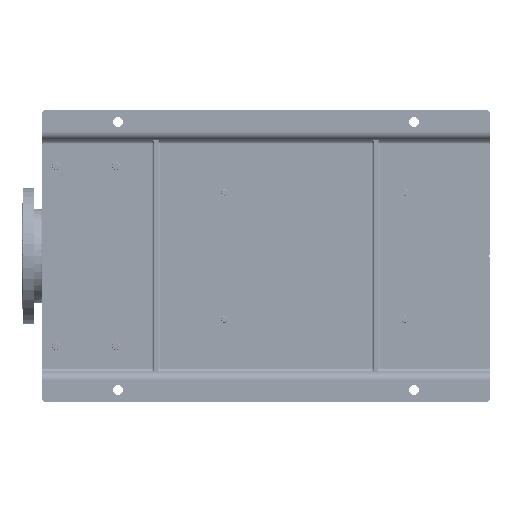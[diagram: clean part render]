
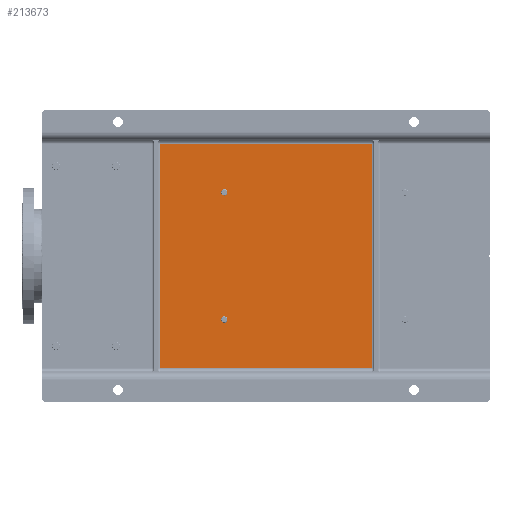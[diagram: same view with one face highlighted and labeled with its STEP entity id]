
A CAD part, front view. The second image highlights one B-rep face of the part: STEP entity #213673.
In plain terms, the highlighted planar face has unit normal (0, -1, 0).
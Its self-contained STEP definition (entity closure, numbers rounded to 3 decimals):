
#2666 = ORIENTED_EDGE ( 'NONE', *, *, #279667, .T. ) ;
#6515 = ORIENTED_EDGE ( 'NONE', *, *, #17752, .T. ) ;
#7103 = ORIENTED_EDGE ( 'NONE', *, *, #119168, .T. ) ;
#7380 = VECTOR ( 'NONE', #8045, 1000. ) ;
#7725 = DIRECTION ( 'NONE',  ( -1., 0., 0. ) ) ;
#8045 = DIRECTION ( 'NONE',  ( 0., 0., -1. ) ) ;
#9220 = DIRECTION ( 'NONE',  ( 0., 1., 0. ) ) ;
#10718 = DIRECTION ( 'NONE',  ( 0., 0., -1. ) ) ;
#13528 = CARTESIAN_POINT ( 'NONE',  ( 524., 90., -455.65 ) ) ;
#17752 = EDGE_CURVE ( 'NONE', #234834, #249135, #98633, .T. ) ;
#18642 = PLANE ( 'NONE',  #108878 ) ;
#19033 = CARTESIAN_POINT ( 'NONE',  ( 524., 90., -455.65 ) ) ;
#26929 = EDGE_CURVE ( 'NONE', #258387, #147712, #129905, .T. ) ;
#31840 = LINE ( 'NONE', #103319, #124909 ) ;
#35587 = CARTESIAN_POINT ( 'NONE',  ( 645., 90., -290. ) ) ;
#37805 = DIRECTION ( 'NONE',  ( 0., 1., 0. ) ) ;
#41522 = DIRECTION ( 'NONE',  ( 0., 1., 0. ) ) ;
#41752 = CARTESIAN_POINT ( 'NONE',  ( 85., 90., -295. ) ) ;
#56090 = CARTESIAN_POINT ( 'NONE',  ( 206., 90., -447.65 ) ) ;
#65760 = CARTESIAN_POINT ( 'NONE',  ( 75., 90., -1120. ) ) ;
#71451 = EDGE_CURVE ( 'NONE', #182493, #170862, #291267, .T. ) ;
#75148 = EDGE_CURVE ( 'NONE', #249135, #234834, #115313, .T. ) ;
#75536 = VECTOR ( 'NONE', #84214, 1000. ) ;
#84214 = DIRECTION ( 'NONE',  ( 0., 0., 1. ) ) ;
#89177 = ORIENTED_EDGE ( 'NONE', *, *, #71451, .T. ) ;
#97048 = EDGE_LOOP ( 'NONE', ( #241607, #7103, #89177, #2666 ) ) ;
#98633 = CIRCLE ( 'NONE', #142501, 8. ) ;
#101985 = LINE ( 'NONE', #196352, #119380 ) ;
#103054 = VERTEX_POINT ( 'NONE', #273644 ) ;
#103319 = CARTESIAN_POINT ( 'NONE',  ( 75., 90., -825. ) ) ;
#107294 = DIRECTION ( 'NONE',  ( 0., 1., 0. ) ) ;
#108878 = AXIS2_PLACEMENT_3D ( 'NONE', #65760, #233126, #204267 ) ;
#112147 = CIRCLE ( 'NONE', #199516, 8. ) ;
#115313 = CIRCLE ( 'NONE', #285443, 8. ) ;
#119168 = EDGE_CURVE ( 'NONE', #103054, #182493, #31840, .T. ) ;
#119380 = VECTOR ( 'NONE', #7725, 1000. ) ;
#124909 = VECTOR ( 'NONE', #286037, 1000. ) ;
#128094 = CARTESIAN_POINT ( 'NONE',  ( 85., 90., -830. ) ) ;
#129905 = CIRCLE ( 'NONE', #212556, 8. ) ;
#134337 = DIRECTION ( 'NONE',  ( 0., 0., -1. ) ) ;
#142501 = AXIS2_PLACEMENT_3D ( 'NONE', #13528, #37805, #294971 ) ;
#147712 = VERTEX_POINT ( 'NONE', #282882 ) ;
#150968 = LINE ( 'NONE', #128094, #7380 ) ;
#151330 = CARTESIAN_POINT ( 'NONE',  ( 524., 90., -463.65 ) ) ;
#151857 = ORIENTED_EDGE ( 'NONE', *, *, #75148, .T. ) ;
#154477 = CARTESIAN_POINT ( 'NONE',  ( 645., 90., -825. ) ) ;
#157095 = FACE_OUTER_BOUND ( 'NONE', #97048, .T. ) ;
#170862 = VERTEX_POINT ( 'NONE', #197215 ) ;
#182493 = VERTEX_POINT ( 'NONE', #154477 ) ;
#189835 = EDGE_CURVE ( 'NONE', #147712, #258387, #112147, .T. ) ;
#196352 = CARTESIAN_POINT ( 'NONE',  ( 75., 90., -295. ) ) ;
#197215 = CARTESIAN_POINT ( 'NONE',  ( 645., 90., -295. ) ) ;
#199516 = AXIS2_PLACEMENT_3D ( 'NONE', #250073, #41522, #134337 ) ;
#204267 = DIRECTION ( 'NONE',  ( 0., 0., -1. ) ) ;
#212556 = AXIS2_PLACEMENT_3D ( 'NONE', #239004, #9220, #10718 ) ;
#213283 = VERTEX_POINT ( 'NONE', #41752 ) ;
#213673 = ADVANCED_FACE ( 'NONE', ( #274243, #252969, #157095 ), #18642, .T. ) ;
#233126 = DIRECTION ( 'NONE',  ( 0., -1., 0. ) ) ;
#234834 = VERTEX_POINT ( 'NONE', #272675 ) ;
#238834 = ORIENTED_EDGE ( 'NONE', *, *, #189835, .T. ) ;
#239004 = CARTESIAN_POINT ( 'NONE',  ( 206., 90., -455.65 ) ) ;
#241607 = ORIENTED_EDGE ( 'NONE', *, *, #278012, .T. ) ;
#249135 = VERTEX_POINT ( 'NONE', #151330 ) ;
#250073 = CARTESIAN_POINT ( 'NONE',  ( 206., 90., -455.65 ) ) ;
#251834 = DIRECTION ( 'NONE',  ( 0., 0., 1. ) ) ;
#252969 = FACE_BOUND ( 'NONE', #296588, .T. ) ;
#258387 = VERTEX_POINT ( 'NONE', #56090 ) ;
#259083 = EDGE_LOOP ( 'NONE', ( #6515, #151857 ) ) ;
#269613 = ORIENTED_EDGE ( 'NONE', *, *, #26929, .T. ) ;
#272675 = CARTESIAN_POINT ( 'NONE',  ( 524., 90., -447.65 ) ) ;
#273644 = CARTESIAN_POINT ( 'NONE',  ( 85., 90., -825. ) ) ;
#274243 = FACE_BOUND ( 'NONE', #259083, .T. ) ;
#278012 = EDGE_CURVE ( 'NONE', #213283, #103054, #150968, .T. ) ;
#279667 = EDGE_CURVE ( 'NONE', #170862, #213283, #101985, .T. ) ;
#282882 = CARTESIAN_POINT ( 'NONE',  ( 206., 90., -463.65 ) ) ;
#285443 = AXIS2_PLACEMENT_3D ( 'NONE', #19033, #107294, #251834 ) ;
#286037 = DIRECTION ( 'NONE',  ( 1., 0., 0. ) ) ;
#291267 = LINE ( 'NONE', #35587, #75536 ) ;
#294971 = DIRECTION ( 'NONE',  ( 0., 0., 1. ) ) ;
#296588 = EDGE_LOOP ( 'NONE', ( #269613, #238834 ) ) ;
